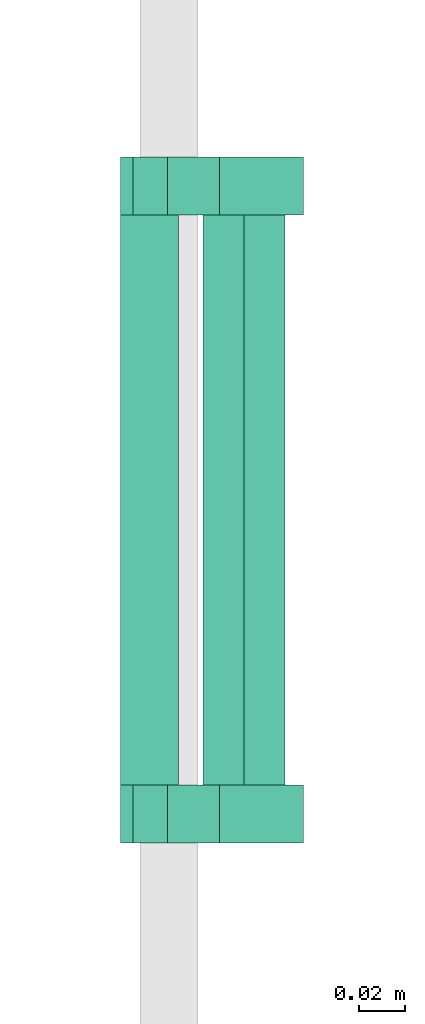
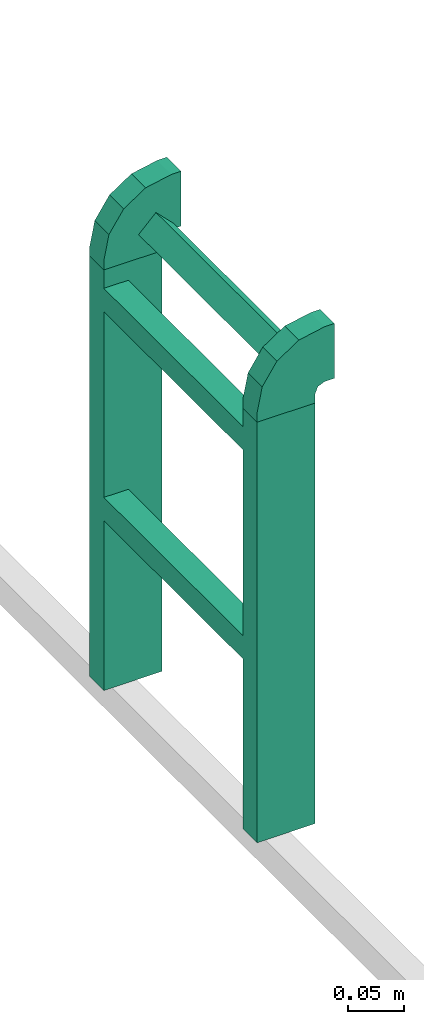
# One storey, part 3 of 5: 1 flow fitting, 1 flow segment.
"""IFC2X3 building model written with IfcOpenShell, lengths in millimetres."""

from ifc_helpers import new_model, entity, si_unit, converted_unit, derived_unit, direction, frame, origin_with_axes, place, context, subcontext, project, spatial, open_shell, surface_model, source, transform, mapped, type_object, element, save


model = new_model("IFC2X3")

# Units and contexts
model_context = context("Model", 3, precision=0.01, world=frame((0.0, 4.29681676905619e-09, 0.0)), true_north=direction((4.01073788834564e-13, 1.0)))
plan_context = context("Plan", 3, precision=0.01, world=frame((0.0, 4.29681676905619e-09, 0.0)), true_north=direction((4.01073788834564e-13, 1.0)))
body_context = subcontext(model_context, "Body", "Model", "MODEL_VIEW")
ifc_project = project(units=[converted_unit("PLANEANGLEUNIT", "DEGREE", entity("IfcPositiveLengthMeasure", 0.0174532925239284), si_unit("PLANEANGLEUNIT", "RADIAN"), dimensions=[0, 0, 0, 0, 0, 0, 0]), si_unit("AREAUNIT", "SQUARE_METRE"), si_unit("LENGTHUNIT", "METRE", prefix="MILLI"), si_unit("MASSUNIT", "GRAM", prefix="KILO"), si_unit("POWERUNIT", "WATT"), si_unit("PRESSUREUNIT", "PASCAL"), si_unit("FORCEUNIT", "NEWTON", prefix="KILO"), si_unit("ELECTRICCURRENTUNIT", "AMPERE"), si_unit("THERMODYNAMICTEMPERATUREUNIT", "DEGREE_CELSIUS"), si_unit("TIMEUNIT", "SECOND"), si_unit("VOLUMEUNIT", "CUBIC_METRE"), derived_unit("LINEARVELOCITYUNIT", [(si_unit("LENGTHUNIT", "METRE"), 1), (si_unit("TIMEUNIT", "SECOND"), -1)]), derived_unit("VOLUMETRICFLOWRATEUNIT", [(si_unit("VOLUMEUNIT", "CUBIC_METRE"), 1), (si_unit("TIMEUNIT", "SECOND"), -1)]), derived_unit("THERMALTRANSMITTANCEUNIT", [(si_unit("POWERUNIT", "WATT"), 1), (si_unit("THERMODYNAMICTEMPERATUREUNIT", "KELVIN"), -1), (si_unit("AREAUNIT", "SQUARE_METRE"), -1)])], contexts=[model_context, plan_context])

# Site, building, storey
site_placement = place(None, frame((0.0, -4.29681676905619e-09, 0.0), z_axis=(0.0, 0.0, 1.0), x_axis=(1.0, 0.0, 0.0)))
site = spatial("IfcSite", under=ifc_project, at=site_placement, Name="ENGM", CompositionType="ELEMENT")
building_placement = place(site_placement, frame((0.0, 4.29681676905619e-09, 0.0), z_axis=(0.0, 0.0, 1.0), x_axis=(1.0, 0.0, 0.0)))
building = spatial("IfcBuilding", under=site, at=building_placement, Name="TS", CompositionType="ELEMENT")
storey_placement = place(building_placement, frame((0.0, 0.0, 200300.0), z_axis=(0.0, 0.0, 1.0), x_axis=(1.0, 0.0, 0.0)))
storey = spatial("IfcBuildingStorey", under=building, at=storey_placement, Name="Nivå C", CompositionType="ELEMENT", Elevation=200300.0)

# Flow fitting
cable_carrier_fitting_type = type_object("IfcCableCarrierFittingType", Name="Standard 10mm", PredefinedType="BEND")
shared_shape_1 = source(origin_with_axes(), body_context, "Body", "SurfaceModel", [
    surface_model("IfcShellBasedSurfaceModel", [(-13.21216, -24.67157, 124.6), (-40.0, 30.0, 124.6), (-32.92893, 32.92893, 124.6), (-40.0, -30.0, 124.6), (-30.0, 40.0, 124.6), (30.0, 40.0, 124.6), (24.67157, 13.21216, 124.6), (9.49747, -9.49747, 124.6), (-32.92893, 32.92893, 150.0), (-40.0, 30.0, 150.0), (-13.21216, -24.67157, 150.0), (-40.0, -30.0, 150.0), (9.49747, -9.49747, 150.0), (24.67157, 13.21216, 150.0), (-30.0, 40.0, 150.0), (30.0, 40.0, 150.0), (-13.21216, -24.67157, -150.0), (-40.0, 30.0, -150.0), (-32.92893, 32.92893, -150.0), (-40.0, -30.0, -150.0), (-30.0, 40.0, -150.0), (30.0, 40.0, -150.0), (24.67157, 13.21216, -150.0), (9.49747, -9.49747, -150.0), (-32.92893, 32.92893, -124.6), (-40.0, 30.0, -124.6), (-13.21216, -24.67157, -124.6), (-40.0, -30.0, -124.6), (9.49747, -9.49747, -124.6), (24.67157, 13.21216, -124.6), (-30.0, 40.0, -124.6), (30.0, 40.0, -124.6), (-22.88338, -26.59529, 150.0), (-26.60608, -27.33578, 124.6), (-1.85734, -17.08452, 124.6), (-1.85734, -17.08452, 150.0), (26.59529, 22.88338, 124.6), (27.33578, 26.60608, 150.0), (17.08452, 1.85734, 124.6), (17.08452, 1.85734, 150.0), (-22.88338, -26.59529, -150.0), (26.59529, 22.88338, -124.6), (27.33578, 26.60608, -150.0), (-26.60608, -27.33578, -124.6), (-1.85734, -17.08452, -124.6), (-1.85734, -17.08452, -150.0), (17.08452, 1.85734, -150.0), (17.08452, 1.85734, -124.6), (-23.94868, 41.90919, 124.6), (-5.98816, 23.94868, -124.6), (-23.94868, 41.90919, -124.6), (-5.98816, 23.94868, 124.6), (-23.94868, 5.98816, -124.6), (-23.94868, 5.98816, 124.6), (-41.90919, 23.94868, -124.6), (-41.90919, 23.94868, 124.6), (-50.0, 30.0, 150.0), (-50.0, 30.0, 124.6), (-50.0, -30.0, 124.6), (-50.0, -30.0, 150.0), (-50.0, 30.0, -124.6), (-50.0, 30.0, -150.0), (-50.0, -30.0, -150.0), (-50.0, -30.0, -124.6), (-30.0, 50.0, 124.6), (30.0, 50.0, 124.6), (30.0, 50.0, 150.0), (-30.0, 50.0, 150.0), (-30.0, 50.0, -150.0), (30.0, 50.0, -150.0), (30.0, 50.0, -124.6), (-30.0, 50.0, -124.6)], [open_shell([[[0, 1, 2]], [[0, 3, 1]], [[4, 5, 6]], [[7, 0, 2]], [[2, 6, 7]], [[2, 4, 6]], [[8, 9, 10]], [[10, 9, 11]], [[12, 13, 8]], [[8, 13, 14]], [[15, 14, 13]], [[12, 8, 10]], [[16, 17, 18]], [[16, 19, 17]], [[20, 21, 22]], [[23, 16, 18]], [[18, 22, 23]], [[18, 20, 22]], [[24, 25, 26]], [[26, 25, 27]], [[28, 29, 24]], [[24, 29, 30]], [[31, 30, 29]], [[28, 24, 26]], [[8, 1, 9]], [[2, 1, 8]], [[14, 4, 2]], [[8, 14, 2]], [[0, 32, 33]], [[34, 12, 35]], [[11, 33, 32]], [[12, 34, 7]], [[0, 10, 32]], [[35, 10, 0]], [[35, 0, 34]], [[13, 36, 37]], [[38, 6, 13]], [[7, 39, 12]], [[5, 37, 36]], [[33, 11, 3]], [[38, 13, 39]], [[39, 7, 38]], [[36, 13, 6]], [[5, 15, 37]], [[25, 18, 17]], [[24, 18, 25]], [[30, 20, 24]], [[18, 24, 20]], [[26, 40, 16]], [[31, 41, 42]], [[19, 43, 27]], [[23, 44, 45]], [[26, 16, 45]], [[40, 26, 43]], [[23, 28, 44]], [[41, 22, 42]], [[42, 21, 31]], [[19, 40, 43]], [[28, 46, 47]], [[41, 29, 22]], [[22, 47, 46]], [[26, 45, 44]], [[22, 29, 47]], [[28, 23, 46]], [[48, 49, 50]], [[49, 48, 51]], [[49, 51, 52]], [[53, 52, 51]], [[50, 49, 52]], [[52, 54, 50]], [[48, 50, 55]], [[54, 55, 50]], [[51, 48, 53]], [[55, 53, 48]], [[54, 52, 53]], [[53, 55, 54]], [[56, 57, 58]], [[58, 59, 56]], [[60, 61, 62]], [[62, 63, 60]], [[57, 56, 1]], [[9, 1, 56]], [[57, 3, 58]], [[3, 57, 1]], [[64, 5, 4]], [[5, 64, 65]], [[59, 58, 3]], [[3, 11, 59]], [[56, 59, 11]], [[56, 11, 9]], [[15, 66, 67]], [[15, 67, 14]], [[61, 60, 17]], [[25, 17, 60]], [[61, 19, 62]], [[19, 61, 17]], [[68, 21, 20]], [[21, 68, 69]], [[63, 62, 19]], [[19, 27, 63]], [[60, 63, 27]], [[60, 27, 25]], [[31, 70, 71]], [[31, 71, 30]], [[65, 64, 66]], [[67, 66, 64]], [[69, 68, 70]], [[71, 70, 68]], [[4, 14, 67]], [[67, 64, 4]], [[15, 5, 65]], [[65, 66, 15]], [[20, 30, 68]], [[71, 68, 30]], [[31, 21, 69]], [[69, 70, 31]]])]),
])
flow_fitting_placement = place(storey_placement, frame((518714.92871, 417044.49556, 3240.0), z_axis=(0.0, -1.0, 0.0), x_axis=(-1.0, 0.0, 0.0)))
element("IfcFlowFitting", 1, at=flow_fitting_placement, inside=storey, type_object=cable_carrier_fitting_type, Name="Standard 10mm", context=body_context, shape_type="MappedRepresentation", body=[
    mapped(shared_shape_1, transform((0.0, 0.0, 0.0), scale=1.0)),
])

# Flow segment
cable_carrier_segment_type = type_object("IfcCableCarrierSegmentType", Name="Kabelbro", PredefinedType="CABLELADDERSEGMENT")
shared_shape_2 = source(origin_with_axes(), body_context, "Body", "SurfaceModel", [
    surface_model("IfcShellBasedSurfaceModel", [(215.89999, -124.6, -30.0), (241.30001, -124.6, -30.0), (241.30001, -124.6, -4.6), (215.89999, -124.6, -4.6), (241.30001, 124.6, -4.6), (241.30001, 124.6, -30.0), (215.89999, 124.6, -30.0), (215.89999, 124.6, -4.6), (444.50001, -124.6, -30.0), (469.89999, -124.6, -30.0), (469.89999, -124.6, -4.6), (444.50001, -124.6, -4.6), (469.89999, 124.6, -4.6), (469.89999, 124.6, -30.0), (444.50001, 124.6, -30.0), (444.50001, 124.6, -4.6), (30.0, -124.6, -30.0), (30.0, -150.0, -30.0), (30.0, -150.0, 30.0), (30.0, -124.6, 30.0), (30.0, 150.0, -30.0), (30.0, 124.6, -30.0), (30.0, 124.6, 30.0), (30.0, 150.0, 30.0), (490.0, -150.0, -30.0), (490.0, -124.6, -30.0), (490.0, -124.6, 30.0), (490.0, -150.0, 30.0), (490.0, 124.6, -30.0), (490.0, 150.0, -30.0), (490.0, 150.0, 30.0), (490.0, 124.6, 30.0)], [open_shell([[[0, 1, 2]], [[2, 3, 0]], [[4, 5, 6]], [[6, 7, 4]], [[8, 9, 10]], [[10, 11, 8]], [[12, 13, 14]], [[14, 15, 12]], [[3, 2, 4]], [[4, 7, 3]], [[1, 0, 6]], [[6, 5, 1]], [[11, 10, 12]], [[12, 15, 11]], [[9, 8, 14]], [[14, 13, 9]], [[2, 1, 4]], [[5, 4, 1]], [[0, 3, 6]], [[7, 6, 3]], [[10, 9, 12]], [[13, 12, 9]], [[8, 11, 14]], [[15, 14, 11]], [[16, 17, 18]], [[18, 19, 16]], [[20, 21, 22]], [[22, 23, 20]], [[24, 25, 26]], [[26, 27, 24]], [[28, 29, 30]], [[30, 31, 28]], [[17, 16, 24]], [[25, 24, 16]], [[16, 19, 26]], [[26, 25, 16]], [[19, 18, 26]], [[27, 26, 18]], [[18, 17, 24]], [[24, 27, 18]], [[23, 22, 30]], [[31, 30, 22]], [[22, 21, 28]], [[28, 31, 22]], [[21, 20, 28]], [[29, 28, 20]], [[20, 23, 30]], [[30, 29, 20]]])]),
])
flow_segment_placement = place(storey_placement, frame((518714.92871, 417044.49556, 2700.0), z_axis=(1.0, 0.0, 0.0), x_axis=(0.0, 0.0, 1.0)))
element("IfcFlowSegment", 2, at=flow_segment_placement, inside=storey, type_object=cable_carrier_segment_type, Name="Kabelbro", context=body_context, shape_type="MappedRepresentation", body=[
    mapped(shared_shape_2, transform((0.0, 0.0, 0.0), scale=1.0)),
])

save(model, "model.ifc")
